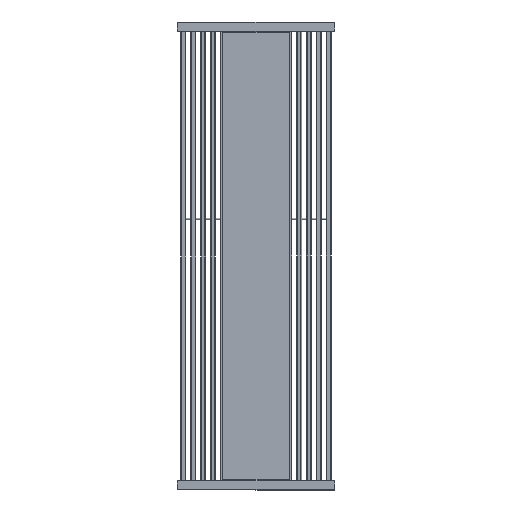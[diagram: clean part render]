
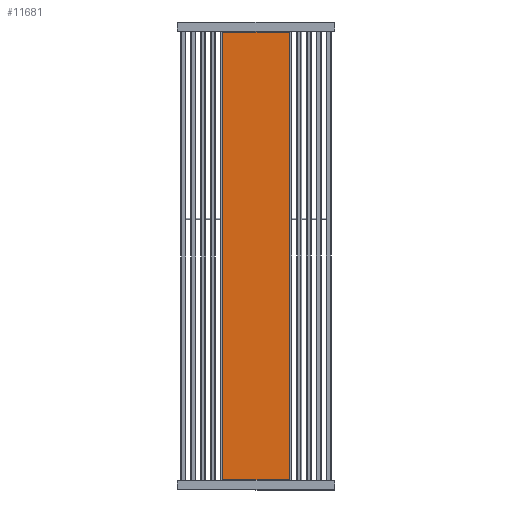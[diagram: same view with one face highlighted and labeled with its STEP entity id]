
A CAD part, front view. The second image highlights one B-rep face of the part: STEP entity #11681.
In plain terms, the highlighted planar face has unit normal (0, -1, 0).
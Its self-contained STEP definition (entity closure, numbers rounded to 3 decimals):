
#11496=CARTESIAN_POINT('',(-134.,-17.,42.5));
#11497=VERTEX_POINT('',#11496);
#11498=CARTESIAN_POINT('',(-134.,-17.,1857.5));
#11499=VERTEX_POINT('',#11498);
#11500=CARTESIAN_POINT('',(-134.,-17.,42.5));
#11501=DIRECTION('',(0.0,0.0,1.0));
#11502=VECTOR('',#11501,1815.0);
#11503=LINE('',#11500,#11502);
#11504=EDGE_CURVE('',#11497,#11499,#11503,.T.);
#11536=CARTESIAN_POINT('',(134.,-17.,1857.5));
#11537=VERTEX_POINT('',#11536);
#11538=CARTESIAN_POINT('',(-134.,-17.,1857.5));
#11539=DIRECTION('',(1.0,0.0,0.0));
#11540=VECTOR('',#11539,268.);
#11541=LINE('',#11538,#11540);
#11542=EDGE_CURVE('',#11499,#11537,#11541,.T.);
#11567=CARTESIAN_POINT('',(134.,-17.,42.5));
#11568=VERTEX_POINT('',#11567);
#11569=CARTESIAN_POINT('',(134.,-17.,1857.5));
#11570=DIRECTION('',(0.0,0.0,-1.0));
#11571=VECTOR('',#11570,1815.0);
#11572=LINE('',#11569,#11571);
#11573=EDGE_CURVE('',#11537,#11568,#11572,.T.);
#11598=CARTESIAN_POINT('',(134.,-17.,42.5));
#11599=DIRECTION('',(-1.0,0.0,0.0));
#11600=VECTOR('',#11599,268.);
#11601=LINE('',#11598,#11600);
#11602=EDGE_CURVE('',#11568,#11497,#11601,.T.);
#11670=CARTESIAN_POINT('',(0.,-17.,950.));
#11671=DIRECTION('',(0.0,-1.0,0.0));
#11672=DIRECTION('',(-1.0,0.0,0.0));
#11673=AXIS2_PLACEMENT_3D('',#11670,#11671,#11672);
#11674=PLANE('',#11673);
#11675=ORIENTED_EDGE('',*,*,#11504,.F.);
#11676=ORIENTED_EDGE('',*,*,#11602,.F.);
#11677=ORIENTED_EDGE('',*,*,#11573,.F.);
#11678=ORIENTED_EDGE('',*,*,#11542,.F.);
#11679=EDGE_LOOP('',(#11675,#11676,#11677,#11678));
#11680=FACE_OUTER_BOUND('',#11679,.T.);
#11681=ADVANCED_FACE('',(#11680),#11674,.T.);
